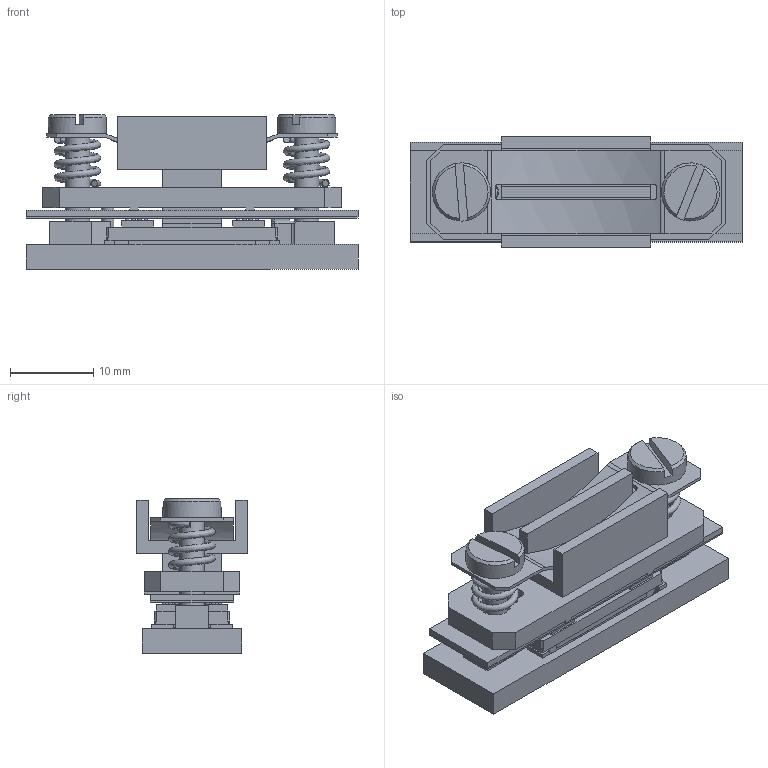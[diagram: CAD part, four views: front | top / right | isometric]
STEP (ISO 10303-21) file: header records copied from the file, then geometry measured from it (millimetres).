
FILE_DESCRIPTION((''),'2;1');
FILE_NAME('C:\Work\Series310\s310-CAD\s310-DMD\2510980-System-S310-o1-v2.stp','2010-05-19T16:12:39',('a0130832'),(''),'Autodesk Inventor 2010','Autodesk Inventor 2010','');
FILE_SCHEMA(('AUTOMOTIVE_DESIGN { 1 0 10303 214 1 1 1 1 }'));
Length unit declared in the file: millimetre
Products named in the file (17): 2510980-System-S310-o1-v2.iam (LevelofDetail2); 2510981-Interface; S310-STEP-Assy-w-pads; S310-STEP-pkg; S310-STEP-window; Symbolize-Pad; Elec-Pad; 2511136-Flex-Assy; 2511137-Flex-Cab; 2510978-Interposer; 2511138-Stiffener; 2510982-Clamp; 2511135-Screw-Shoulder-M2; Spring; 2511139-Thermal-Pad; 2510983-heat-sink_v2; 2510984-Flat-Spring_v2
Assembly tree (116 placements, depth 3):
  2510980-System-S310-o1-v2.iam (LevelofDetail2)
    2510981-Interface
    S310-STEP-Assy-w-pads
      S310-STEP-pkg
      S310-STEP-window
      Symbolize-Pad
      Elec-Pad  x98
    2511136-Flex-Assy
      2511137-Flex-Cab
      2510978-Interposer  x2
      2511138-Stiffener
    2510982-Clamp
    2511135-Screw-Shoulder-M2  x2
    Spring  x2
    2511139-Thermal-Pad
    2510983-heat-sink_v2
    2510984-Flat-Spring_v2
Bounding box: 40 x 13.3 x 18.65 mm (x, y, z)
Volume: 4244.5 mm3; surface area: 7816.2 mm2
Topology: 114 solids, 114 shells, 2388 faces, 5450 edges, 3628 vertices
Faces by surface type: plane 2129, cylinder 240, cone 13, bspline 4, torus 2
Full cylindrical faces by diameter (mm): 0.02 x80, 0.04 x1, 0.4 x80, 0.5 x4, 1.5 x1, 1.55 x1, 1.7 x1, 2 x4, 2.15 x1, 3 x2, 3.7 x1, 3.797 x2, 4.3 x1, 7 x2
Entity records: 32802 total; most frequent: CARTESIAN_POINT 6593, DIRECTION 5135, ORIENTED_EDGE 4894, EDGE_CURVE 2447, VECTOR 2109, LINE 2109, VERTEX_POINT 1694, AXIS2_PLACEMENT_3D 1513
